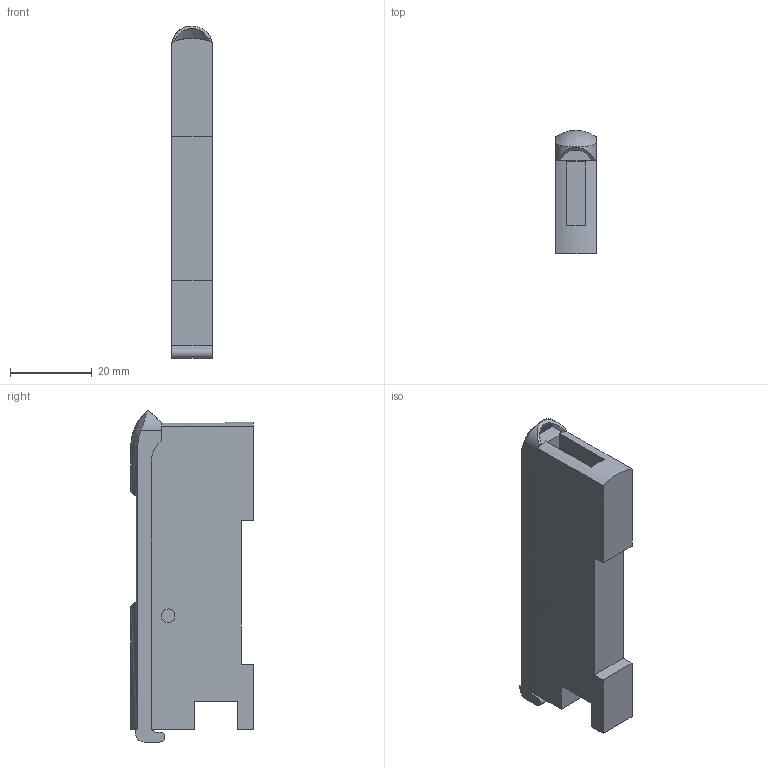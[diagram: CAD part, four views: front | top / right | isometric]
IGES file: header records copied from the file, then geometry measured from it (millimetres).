
Start section: SolidWorks IGES FILE using analytic representation for surfaces
Global section: file name: C:\Documents and Settings\yk0651\デスクトップ\3D_catalog_050929\0_IGES\LS-401.IGS; native system: SolidWorks 2004 by SolidWorks Corporation; preprocessor: Version 5.3; author: yk0651; date: 051001.151236; units: millimetre
Bounding box: 10 x 30 x 81 mm (x, y, z)
Volume: 17801.9 mm3; surface area: 9156 mm2
Topology: 2 solids, 2 shells, 166 faces, 424 edges, 282 vertices
Faces by surface type: plane 133, revolution 29, bspline 4
